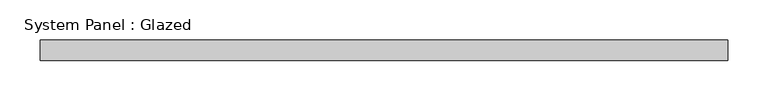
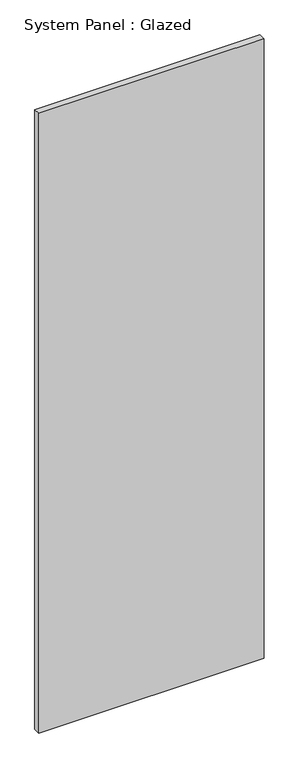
"""IFC4 building model written with IfcOpenShell, lengths in millimetres: plate geometry, System Panel : Glazed."""

from ifc_helpers import new_model, si_unit, origin, origin_with_axes, place, context, project, spatial, polyline, outline, extrude, source, transform, mapped, element, save


def system_panel_glazed_8b1c2311(model_context):
    return source(origin(), model_context, "Body", "SweptSolid", [
        extrude(outline(polyline([(425.0, 24.5), (-425.0, 24.5), (-425.0, 49.5), (425.0, 49.5), (425.0, 24.5)])), origin_with_axes(), (0.0, 0.0, 1.0), 2470.0),
    ])


if __name__ == "__main__":
    model = new_model("IFC4")
    model_context = context("Model", 3, world=origin())
    ifc_project = project(units=[si_unit("LENGTHUNIT", "METRE", prefix="MILLI")], contexts=[model_context])
    site = spatial("IfcSite", under=ifc_project)
    building = spatial("IfcBuilding", under=site)
    placement = place(None, origin())
    system_panel_glazed_shape = system_panel_glazed_8b1c2311(model_context)
    element("IfcPlate", 1, ObjectType="System Panel : Glazed", at=placement, inside=building, context=model_context, shape_type="MappedRepresentation", body=[
        mapped(system_panel_glazed_shape, transform((0.0, 0.0, 0.0), x_axis=(1.0, 0.0, 0.0), y_axis=(0.0, 1.0, 0.0), z_axis=(0.0, 0.0, 1.0))),
    ])
    save(model, "model.ifc")
